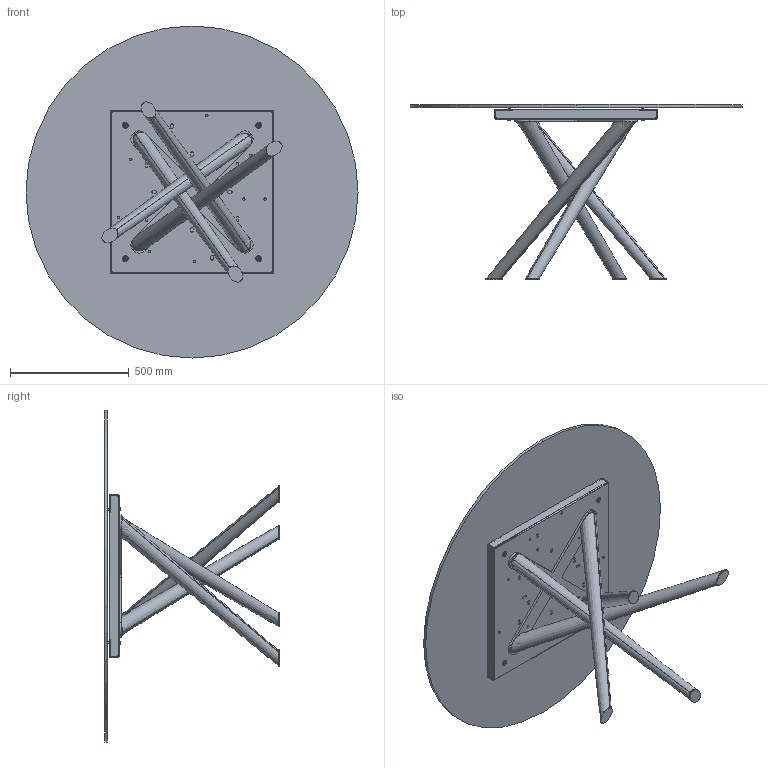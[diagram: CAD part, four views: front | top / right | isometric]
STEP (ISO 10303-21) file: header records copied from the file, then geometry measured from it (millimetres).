
FILE_DESCRIPTION (( 'STEP AP203' ), '1' );
FILE_NAME ('BA06G.STEP', '2024-08-08T06:39:56', ( '' ), ( '' ), 'SwSTEP 2.0', 'SolidWorks 2022', '' );
FILE_SCHEMA (( 'CONFIG_CONTROL_DESIGN' ));
Length unit declared in the file: millimetre
Products named in the file (12): BAB000000_01-00-Croce Superiore baly; C1XCRMXX-00-piani Rotondi Cristallo_C06 D.140cm; BA06G; TTAV0801-02-TELAIO UNIVERSALE TONDO-VASSOIO; BAB000000-00-BALY BASE GREZZA; Parte5^BAB000000-00-BALY BASE GREZZA; BAB000000_02-00-basamento pali conificati; COLLO TELAIO UNIVERSALE TTAV0801 CON FERRAMENTA_MTG TOP LEGNO-MARMO-KING; TTAV0801 TELAIO UNIVERSALE TONDO-PIASTRINA; rondella M8_8X24; M8xXXmm_M8x55mm; TTAV0801-02-TELAIO UNIVERSALE TONDO
Assembly tree (20 placements, depth 4):
  BA06G
    C1XCRMXX-00-piani Rotondi Cristallo_C06 D.140cm
    BAB000000-00-BALY BASE GREZZA
      BAB000000_01-00-Croce Superiore baly
      BAB000000_02-00-basamento pali conificati
      Parte5^BAB000000-00-BALY BASE GREZZA
    COLLO TELAIO UNIVERSALE TTAV0801 CON FERRAMENTA_MTG TOP LEGNO-MARMO-KING
      TTAV0801-02-TELAIO UNIVERSALE TONDO
        TTAV0801-02-TELAIO UNIVERSALE TONDO-VASSOIO
        TTAV0801 TELAIO UNIVERSALE TONDO-PIASTRINA  x4
      rondella M8_8X24  x4
      M8xXXmm_M8x55mm  x4
Bounding box: 1400 x 737 x 1400 mm (x, y, z)
Volume: 23150305.1 mm3; surface area: 5944414.1 mm2
Topology: 23 solids, 23 shells, 685 faces, 1761 edges, 1118 vertices
Faces by surface type: plane 310, cylinder 259, cone 60, torus 48, bspline 8
Entity records: 16457 total; most frequent: CARTESIAN_POINT 4070, DIRECTION 2299, ORIENTED_EDGE 2252, EDGE_CURVE 1126, AXIS2_PLACEMENT_3D 811, VERTEX_POINT 728, LINE 677, VECTOR 677
